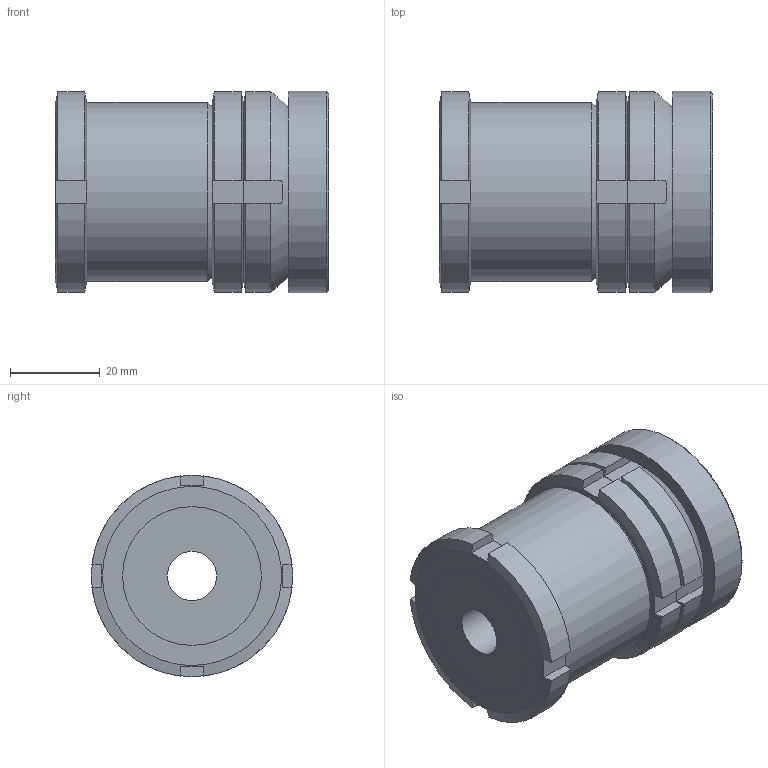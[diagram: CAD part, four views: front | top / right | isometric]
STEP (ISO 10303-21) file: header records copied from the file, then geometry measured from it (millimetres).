
FILE_DESCRIPTION( ( 'STEP AP203' ), '1' );
FILE_NAME( 'C:/Temp/Ganter_Step_05_03_2020/data/3_2/gn350_5/gn350_5_ni/Stainless Steel-Levelling set GN 350.5-45-11-61-NI (0-0).stp', '2020-03-13T05:28:49', ( 'License CC BY-ND 4.0' ), ( 'CADENAS' ), ' ', 'PARTsolutions', ' ' );
FILE_SCHEMA( ( 'CONFIG_CONTROL_DESIGN' ) );
Length unit declared in the file: millimetre
Products named in the file (5): Stainless Steel-Levelling set GN 350.5-45-11-61-NI (0-0); _Levelling set GN 350.5-45-11-61-ST-G; _Levelling set GN 350.5-45-11-61-ST-K; _Levelling set GN 350.5-45-11-61-ST-P(0); _Levelling set GN 350.5-45-11-41-ST-KM
Assembly tree (4 placements, depth 2):
  Stainless Steel-Levelling set GN 350.5-45-11-61-NI (0-0)
    _Levelling set GN 350.5-45-11-61-ST-G
    _Levelling set GN 350.5-45-11-61-ST-K
    _Levelling set GN 350.5-45-11-61-ST-P(0)
    _Levelling set GN 350.5-45-11-41-ST-KM
Bounding box: 61 x 45 x 45 mm (x, y, z)
Volume: 79952.2 mm3; surface area: 27702.4 mm2
Topology: 4 solids, 4 shells, 85 faces, 211 edges, 140 vertices
Faces by surface type: plane 50, cylinder 24, cone 9, sphere 2
Full cylindrical faces by diameter (mm): 11 x1, 22 x1, 24.492 x1, 25.5 x1, 28.376 x1, 28.917 x1, 30 x2, 31 x2, 40 x1, 45 x1
Entity records: 2696 total; most frequent: CARTESIAN_POINT 698, DIRECTION 368, ORIENTED_EDGE 356, EDGE_CURVE 178, AXIS2_PLACEMENT_3D 160, VERTEX_POINT 130, EDGE_LOOP 122, FACE_OUTER_BOUND 99
